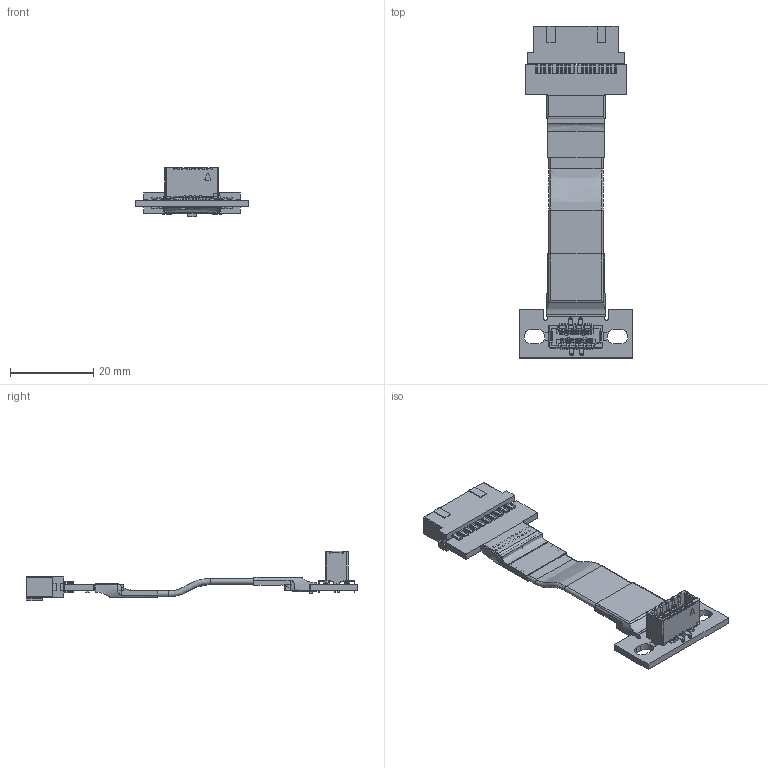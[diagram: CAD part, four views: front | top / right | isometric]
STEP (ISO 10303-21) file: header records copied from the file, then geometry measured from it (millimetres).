
FILE_DESCRIPTION(('Open CASCADE Model'),'2;1');
FILE_NAME('Open CASCADE Shape Model','2022-07-20T21:35:24',('Author'),( 'Open CASCADE'),'Open CASCADE STEP processor 6.8','Open CASCADE 6.8' ,'Unknown');
FILE_SCHEMA(('AUTOMOTIVE_DESIGN { 1 0 10303 214 1 1 1 1 }'));
Length unit declared in the file: millimetre
Products named in the file (68): PCB; Board; Open CASCADE STEP translator 6.8 2.1.1; Designator66; USB-19P-male; _2; 0603_RES; Capsule; Encapsulation; TopCover; _1; C0603_060; Designator64; type-E_female3_20220720; Open CASCADE STEP translator 6.8 2.6; Free-Models; R11SL-F_3.0___Heat_shrink_tube_20220207; cable20-A2C3
Assembly tree (70 placements, depth 4):
  PCB
    Board
      Open CASCADE STEP translator 6.8 2.1.1
    Designator66
      USB-19P-male
    _2
      0603_RES
        Capsule
        Encapsulation  x2
        TopCover
    _1
      C0603_060
      C0603_060
      C0603_060
    Designator64
      type-E_female3_20220720
      type-E_female3_20220720
      type-E_female3_20220720
      type-E_female3_20220720
      type-E_female3_20220720
      type-E_female3_20220720
      type-E_female3_20220720
      type-E_female3_20220720
      type-E_female3_20220720
      type-E_female3_20220720
    Open CASCADE STEP translator 6.8 2.6
      0603_RES
        Capsule
        Encapsulation  x2
        TopCover
    Free-Models
      R11SL-F_3.0___Heat_shrink_tube_20220207  x2
      cable20-A2C3
      cable20-A2C3
      cable20-A2C3
      cable20-A2C3
      cable20-A2C3
      cable20-A2C3
      cable20-A2C3
      cable20-A2C3
      cable20-A2C3
      cable20-A2C3
      cable20-A2C3
      cable20-A2C3
      cable20-A2C3
      cable20-A2C3
      cable20-A2C3
      cable20-A2C3
      cable20-A2C3
      cable20-A2C3
      cable20-A2C3
      cable20-A2C3
      cable20-A2C3
      cable20-A2C3
      cable20-A2C3
      cable20-A2C3
      cable20-A2C3
      cable20-A2C3
      cable20-A2C3
      cable20-A2C3
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Bounding box: 27.28 x 79.89 x 11.85 mm (x, y, z)
Volume: 3135.5 mm3; surface area: 8964.5 mm2
Topology: 66 solids, 66 shells, 2434 faces, 6518 edges, 4262 vertices
Faces by surface type: plane 1623, cylinder 540, bspline 170, torus 44, extrusion 36, offset 12, sphere 8, cone 1
Full cylindrical faces by diameter (mm): 0.4 x96, 0.404 x2, 0.405 x2, 0.6 x40, 0.7 x4, 0.85 x2, 1.15 x2
Entity records: 93576 total; most frequent: CARTESIAN_POINT 17963, ORIENTED_EDGE 12080, DIRECTION 10899, EDGE_CURVE 6036, VECTOR 4549, LINE 4515, VERTEX_POINT 3946, AXIS2_PLACEMENT_3D 3175
